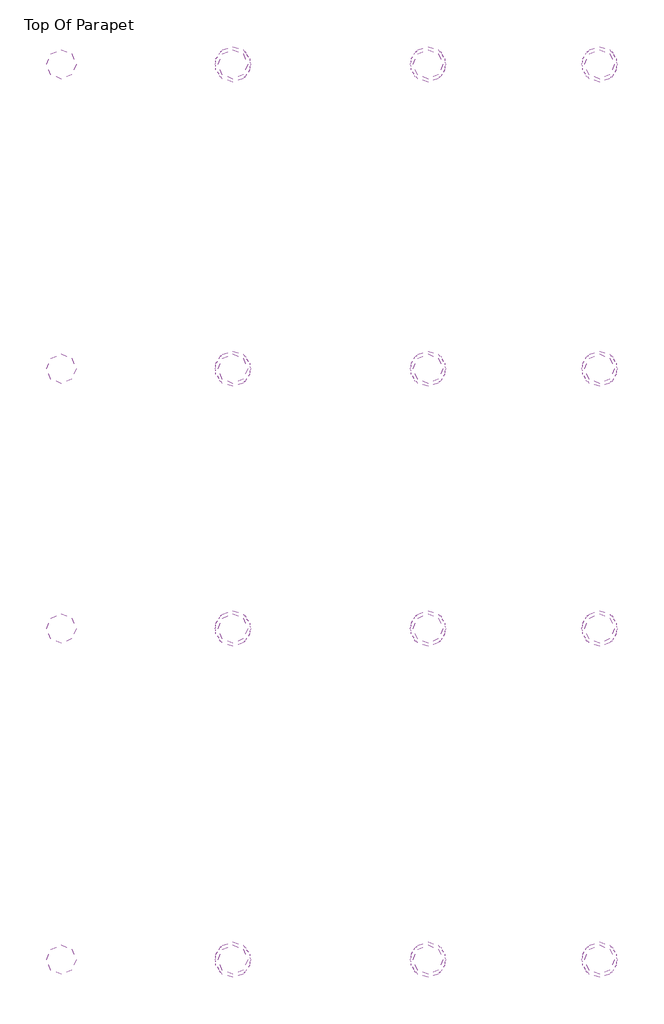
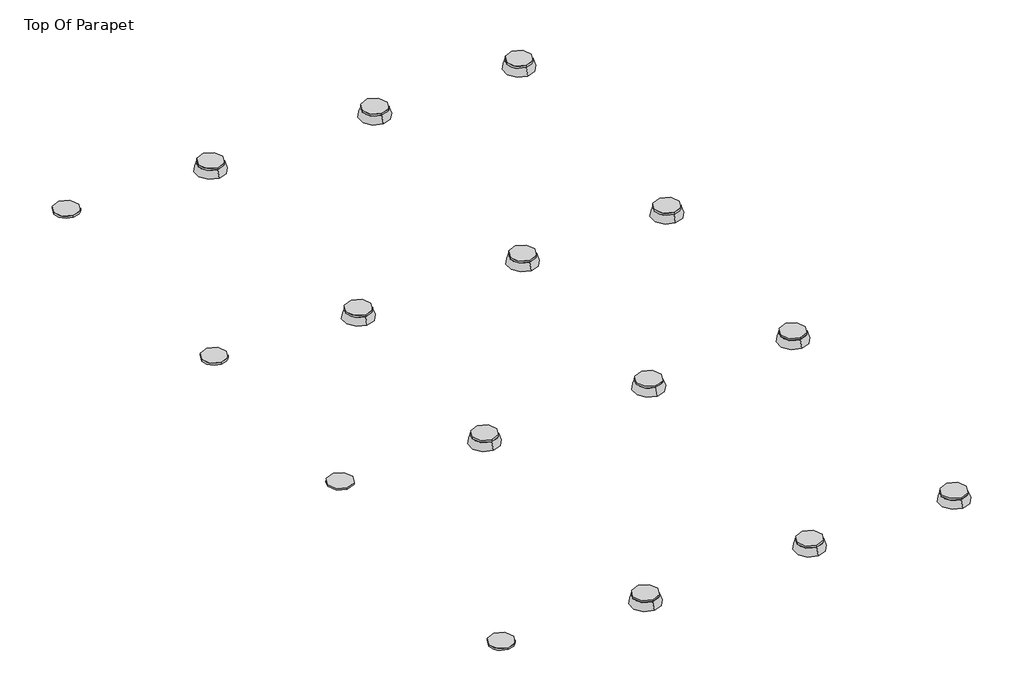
# One storey: 16 duct segments, 12 air terminals.
"""IFC4 building model written with IfcOpenShell, lengths in millimetres."""

import ifcopenshell
import ifcopenshell.guid

model = None  # the IFC model being written
_history = None  # IfcOwnerHistory: only IFC2X3 demands one
_inside = {}  # id of a spatial element -> (the spatial element, [elements in it])
_under = {}  # id of a project, library or spatial element -> (it, [spatial elements below it])
_declared = {}  # id of a project -> (the project, [libraries it declares])
_typed = {}  # id of a type object -> (the type object, [elements of that type])
_made_of = {}  # id of a material, layer set ... -> (it, [elements and type objects made of it])


def new_model(schema):
    """Start an empty IFC model of exactly this schema.

    Asked for "IFC4X3", IfcOpenShell would pick the latest addendum, in which some entities
    have other attributes; the version numbers below select the first issue.
    IFC2X3 requires an IfcOwnerHistory on every rooted entity: one is made here for all.
    """
    global model, _history
    if schema == "IFC4X3":
        model = ifcopenshell.file(schema_version=(4, 3, 0, 0))
    else:
        model = ifcopenshell.file(schema=schema)
    _inside.clear()
    _under.clear()
    _declared.clear()
    _typed.clear()
    _made_of.clear()
    _history = None
    if model.schema == "IFC2X3":
        org = make("IfcOrganization", Name="unknown")
        user = make(
            "IfcPersonAndOrganization",
            ThePerson=make("IfcPerson", FamilyName="unknown"),
            TheOrganization=org,
        )
        app = make(
            "IfcApplication",
            ApplicationDeveloper=org,
            Version="unknown",
            ApplicationFullName="unknown",
            ApplicationIdentifier="unknown",
        )
        _history = make(
            "IfcOwnerHistory",
            OwningUser=user,
            OwningApplication=app,
            ChangeAction="ADDED",
            CreationDate=0,
        )
    return model


def make(cls, **values):
    """One entity of the class cls with the attributes given. An attribute that is None is left unset."""
    return model.create_entity(
        cls, **{name: value for name, value in values.items() if value is not None}
    )


def rooted(cls, **values):
    """An entity with a GlobalId (a new one), such as an element, a storey or a relation."""
    return make(cls, GlobalId=ifcopenshell.guid.new(), OwnerHistory=_history, **values)


def si_unit(unit_type, name, prefix=None):
    """IfcSIUnit, for example si_unit("LENGTHUNIT", "METRE", prefix="MILLI")."""
    return make("IfcSIUnit", UnitType=unit_type, Prefix=prefix, Name=name)


def assignment(units):
    """IfcUnitAssignment: the units of a project."""
    return None if units is None else make("IfcUnitAssignment", Units=units)


def point(xyz):
    """IfcCartesianPoint."""
    return None if xyz is None else make("IfcCartesianPoint", Coordinates=xyz)


def direction(xyz):
    """IfcDirection."""
    return None if xyz is None else make("IfcDirection", DirectionRatios=xyz)


def frame(location, z_axis=None, x_axis=None):
    """IfcAxis2Placement3D, a coordinate frame: its origin and axes. An axis left out is left unset."""
    return make(
        "IfcAxis2Placement3D",
        Location=point(location),
        Axis=direction(z_axis),
        RefDirection=direction(x_axis),
    )


def frame_2d(location, x_axis=None):
    """IfcAxis2Placement2D, a coordinate frame in the plane: its origin and x axis."""
    return make(
        "IfcAxis2Placement2D", Location=point(location), RefDirection=direction(x_axis)
    )


def origin():
    """The frame at (0, 0, 0) with its axes left unset."""
    return frame((0.0, 0.0, 0.0))


def origin_with_axes():
    """The frame at (0, 0, 0) with the z axis (0, 0, 1) and the x axis (1, 0, 0) written out."""
    return frame((0.0, 0.0, 0.0), z_axis=(0.0, 0.0, 1.0), x_axis=(1.0, 0.0, 0.0))


def origin_2d():
    """The frame at (0, 0) in the plane with its x axis left unset."""
    return frame_2d((0.0, 0.0))


def place(relative_to, where):
    """IfcLocalPlacement: puts the frame where relative to a parent placement (None: the world)."""
    return make(
        "IfcLocalPlacement", PlacementRelTo=relative_to, RelativePlacement=where
    )


def context(
    kind, dimensions, precision=None, world=None, true_north=None, identifier=None
):
    """IfcGeometricRepresentationContext, for example the 3D "Model" context."""
    return make(
        "IfcGeometricRepresentationContext",
        ContextIdentifier=identifier,
        ContextType=kind,
        CoordinateSpaceDimension=dimensions,
        Precision=precision,
        WorldCoordinateSystem=world,
        TrueNorth=true_north,
    )


def project(units=None, contexts=None):
    """IfcProject with its units and contexts."""
    return rooted(
        "IfcProject",
        Name="project",
        RepresentationContexts=contexts,
        UnitsInContext=assignment(units),
    )


def spatial(cls, under=None, at=None, **own):
    """A site, building, storey or space (cls), placed at a placement, below another one or the project."""
    s = rooted(cls, ObjectPlacement=at, **own)
    if under is not None:
        _under.setdefault(under.id(), (under, []))[1].append(s)
    return s


def polyline(points):
    """IfcPolyline through the points."""
    return make("IfcPolyline", Points=[point(p) for p in points])


def circle_curve(where, radius):
    """IfcCircle in the frame where."""
    return make("IfcCircle", Position=where, Radius=radius)


def trimmed(basis, trim1, trim2, sense, master):
    """IfcTrimmedCurve: the piece of a basis curve between two trims."""
    return make(
        "IfcTrimmedCurve",
        BasisCurve=basis,
        Trim1=trim1,
        Trim2=trim2,
        SenseAgreement=sense,
        MasterRepresentation=master,
    )


def segment(curve, same_sense, transition):
    """IfcCompositeCurveSegment."""
    return make(
        "IfcCompositeCurveSegment",
        Transition=transition,
        SameSense=same_sense,
        ParentCurve=curve,
    )


def composite_curve(segments, self_intersect=None):
    """IfcCompositeCurve: segments joined end to end."""
    return make("IfcCompositeCurve", Segments=segments, SelfIntersect=self_intersect)


def outline(outer, holes=None, kind="AREA"):
    """IfcArbitraryClosedProfileDef: a profile drawn as a closed curve; with holes, ...WithVoids."""
    if holes is None:
        return make("IfcArbitraryClosedProfileDef", ProfileType=kind, OuterCurve=outer)
    return make(
        "IfcArbitraryProfileDefWithVoids",
        ProfileType=kind,
        OuterCurve=outer,
        InnerCurves=holes,
    )


def extrude(swept, where, along, depth):
    """IfcExtrudedAreaSolid: the profile swept, set in the frame where, extruded along a direction by depth."""
    return make(
        "IfcExtrudedAreaSolid",
        SweptArea=swept,
        Position=where,
        ExtrudedDirection=direction(along),
        Depth=depth,
    )


def shape(context_of_items, identifier, shape_type, items):
    """IfcShapeRepresentation: the items that make up one representation, for example the "Body"."""
    return make(
        "IfcShapeRepresentation",
        ContextOfItems=context_of_items,
        RepresentationIdentifier=identifier,
        RepresentationType=shape_type,
        Items=items,
    )


def source(mapping_origin, context_of_items, identifier, shape_type, items):
    """IfcRepresentationMap: a shape defined once, which mapped items show again and again."""
    return make(
        "IfcRepresentationMap",
        MappingOrigin=mapping_origin,
        MappedRepresentation=shape(context_of_items, identifier, shape_type, items),
    )


def transform(
    local_origin,
    x_axis=None,
    y_axis=None,
    z_axis=None,
    scale=None,
    scale2=None,
    scale3=None,
    uniform=True,
):
    """IfcCartesianTransformationOperator3D, or its non-uniform kind. x_axis, y_axis, z_axis: its Axis1, 2, 3."""
    if uniform:
        return make(
            "IfcCartesianTransformationOperator3D",
            Axis1=direction(x_axis),
            Axis2=direction(y_axis),
            LocalOrigin=point(local_origin),
            Scale=scale,
            Axis3=direction(z_axis),
        )
    return make(
        "IfcCartesianTransformationOperator3DnonUniform",
        Axis1=direction(x_axis),
        Axis2=direction(y_axis),
        LocalOrigin=point(local_origin),
        Scale=scale,
        Axis3=direction(z_axis),
        Scale2=scale2,
        Scale3=scale3,
    )


def mapped(mapping_source, mapping_target):
    """IfcMappedItem: shows the shape of a source again, moved by a transform."""
    return make(
        "IfcMappedItem", MappingSource=mapping_source, MappingTarget=mapping_target
    )


def made_of(thing, what):
    """Note that an element or type object is made of a material, layer set ...; save() writes the relation."""
    if what is not None:
        _made_of.setdefault(what.id(), (what, []))[1].append(thing)
    return thing


def element(
    cls,
    number,
    at=None,
    inside=None,
    cuts=None,
    type_object=None,
    material=None,
    context=None,
    identifier="Body",
    shape_type=None,
    held_by="IfcProductDefinitionShape",
    body=None,
    shapes=None,
    **own,
):
    """One element of the class cls, such as IfcWall. Its Tag is "e" and its number.

    at: its placement. inside: the storey or other place that contains it. cuts: it is an
    opening in that element (IfcRelVoidsElement). A single representation is given by context,
    identifier, shape_type and body (its items); several are given by shapes. held_by: the class
    of the entity that holds the representations. save() writes the other relations.
    """
    e = rooted(cls, Tag="e%d" % number, ObjectPlacement=at, **own)
    if body is not None:
        shapes = [shape(context, identifier, shape_type, body)]
    if shapes is not None:
        e.Representation = make(held_by, Representations=shapes)
    if inside is not None:
        _inside.setdefault(inside.id(), (inside, []))[1].append(e)
    if cuts is not None:
        rooted(
            "IfcRelVoidsElement", RelatingBuildingElement=cuts, RelatedOpeningElement=e
        )
    if type_object is not None:
        _typed.setdefault(type_object.id(), (type_object, []))[1].append(e)
    return made_of(e, material)


def aggregate(whole, parts):
    """IfcRelAggregates: a whole, such as a stair, and the parts it consists of."""
    return rooted("IfcRelAggregates", RelatingObject=whole, RelatedObjects=parts)


def save(model, path):
    """Write the relations noted so far, then the file.

    IfcRelAggregates (storeys below a building ...), IfcRelContainedInSpatialStructure (elements
    in a storey), IfcRelDefinesByType, IfcRelAssociatesMaterial and IfcRelDeclares: one each for
    every whole, place, type object, material and project.
    """
    for whole, parts in _under.values():
        aggregate(whole, parts)
    for where, things in _inside.values():
        rooted(
            "IfcRelContainedInSpatialStructure",
            RelatedElements=things,
            RelatingStructure=where,
        )
    for kind, things in _typed.values():
        rooted("IfcRelDefinesByType", RelatedObjects=things, RelatingType=kind)
    for what, things in _made_of.values():
        rooted("IfcRelAssociatesMaterial", RelatedObjects=things, RelatingMaterial=what)
    for by, libraries in _declared.values():
        rooted("IfcRelDeclares", RelatingContext=by, RelatedDefinitions=libraries)
    model.write(path)


def plane_surface(at):
    """IfcPlane: the flat surface through the origin of the frame at, square to its z axis."""
    return make("IfcPlane", Position=at)


def revolved_surface(curve, axis_point, axis_direction):
    """IfcSurfaceOfRevolution: the curve turned about the line through axis_point along axis_direction."""
    return make(
        "IfcSurfaceOfRevolution",
        SweptCurve=make("IfcArbitraryOpenProfileDef", ProfileType="CURVE", Curve=curve),
        AxisPosition=make("IfcAxis1Placement", Location=point(axis_point), Axis=direction(axis_direction)),
    )


def advanced_brep(points, edges, surfaces, faces):
    """IfcAdvancedBrep: a solid bounded by faces that lie on surfaces and meet in shared edges.

    An edge is (start, end): straight between two places in points (the first is 0);
    or (start, end, curve); or (start, end, curve, False) where it runs against its curve.
    A face is (place in surfaces, loops), or (place, loops, False) where it looks against
    its surface's normal. A loop lists edges by number (the first is 1), with a minus sign
    where the edge is run from its end to its start. The first loop is the outer one.
    """
    corners = [point(p) for p in points]
    vertices = [make("IfcVertexPoint", VertexGeometry=c) for c in corners]
    made = []
    for start, end, *more in edges:
        made.append(
            make(
                "IfcEdgeCurve",
                EdgeStart=vertices[start],
                EdgeEnd=vertices[end],
                EdgeGeometry=more[0] if more else make("IfcPolyline", Points=[corners[start], corners[end]]),
                SameSense=more[1] if len(more) > 1 else True,
            )
        )
    hull = []
    for where, loops, *sense in faces:
        bounds = []
        for j, loop in enumerate(loops):
            ring = [make("IfcOrientedEdge", EdgeElement=made[abs(k) - 1], Orientation=k > 0) for k in loop]
            bounds.append(
                make(
                    "IfcFaceOuterBound" if j == 0 else "IfcFaceBound",
                    Bound=make("IfcEdgeLoop", EdgeList=ring),
                    Orientation=True,
                )
            )
        hull.append(make("IfcAdvancedFace", Bounds=bounds, FaceSurface=surfaces[where], SameSense=sense[0] if sense else True))
    return make("IfcAdvancedBrep", Outer=make("IfcClosedShell", CfsFaces=hull))


def m_supply_diffuser_circular_round_neck_ceiling_mounted_600_mm_208f270a(model_context):
    return source(origin(), model_context, "Body", "SolidModel", [
        extrude(outline(composite_curve([segment(trimmed(circle_curve(origin_2d(), 63.5), [point((-63.5, 0.0))], [point((63.5, 0.0))], False, "CARTESIAN"), True, "CONTINUOUS"), segment(trimmed(circle_curve(origin_2d(), 63.5), [point((63.5, 0.0))], [point((-63.5, 0.0))], False, "CARTESIAN"), True, "CONTINUOUS")], self_intersect=False)), frame((0.0, 0.0, -157.0), z_axis=(0.0, 0.0, 1.0), x_axis=(1.0, 0.0, 0.0)), (0.0, 0.0, 1.0), 5.0),
        advanced_brep(
        [(-250.0, 0.0, -152.0), (250.0, 0.0, -152.0), (-300.0, 0.0, 0.0), (300.0, 0.0, 0.0)],
        [
            (0, 1, circle_curve(frame((0.0, 0.0, -152.0), z_axis=(0.0, 0.0, -1.0), x_axis=(-1.0, 0.0, 0.0)), 250.0)),
            (1, 0, circle_curve(frame((0.0, 0.0, -152.0), z_axis=(0.0, 0.0, -1.0), x_axis=(1.0, 0.0, 0.0)), 250.0)),
            (2, 3, circle_curve(origin_with_axes(), 300.0)),
            (3, 2, circle_curve(frame((0.0, 0.0, 0.0), z_axis=(0.0, 0.0, 1.0), x_axis=(-1.0, 0.0, 0.0)), 300.0)),
            (3, 1),
            (0, 2),
        ],
        [
            plane_surface(frame((0.0, 0.0, -152.0), z_axis=(0.0, 0.0, -1.0), x_axis=(0.0, -1.0, 0.0))),
            plane_surface(frame((0.0, 0.0, 0.0), z_axis=(0.0, 0.0, 1.0), x_axis=(0.0, -1.0, 0.0))),
            revolved_surface(polyline([(-250.0, 0.0, -152.0), (-300.0, 0.0, 0.0)]), (0.0, 0.0, -912.0), (0.0, 0.0, 1.0)),
            revolved_surface(polyline([(250.0, 0.0, -152.0), (300.0, 0.0, 0.0)]), (0.0, 0.0, -912.0), (0.0, 0.0, 1.0)),
        ],
        [
            (0, [[1, 2]]),
            (1, [[3, 4]]),
            (2, [[-4, 5, -1, 6]]),
            (3, [[-3, -6, -2, -5]]),
        ],
    ),
    ])


model = new_model("IFC4")

# Units and contexts
model_context = context("Model", 3, world=origin())
ifc_project = project(units=[si_unit("LENGTHUNIT", "METRE", prefix="MILLI")], contexts=[model_context])

# Site, building, storey
site = spatial("IfcSite", under=ifc_project)
building = spatial("IfcBuilding", under=site)
storey = spatial("IfcBuildingStorey", under=building, Name="Top Of Parapet", Elevation=5900.0)

# Air terminals
placement = place(None, origin())
m_supply_diffuser_circular_round_neck_ceiling_mounted_600_mm_shape = m_supply_diffuser_circular_round_neck_ceiling_mounted_600_mm_208f270a(model_context)
element("IfcAirTerminal", 1, ObjectType="M_Supply Diffuser - Circular - Round Neck - Ceiling Mounted : 600 mm Face 500 mm Neck", at=placement, inside=storey, context=model_context, shape_type="MappedRepresentation", body=[
    mapped(m_supply_diffuser_circular_round_neck_ceiling_mounted_600_mm_shape, transform((-13250.3527512, -9864.9909647, 7272.7131214), x_axis=(0.0, 0.9999999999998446, -5.576948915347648e-07), y_axis=(1.0000000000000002, 0.0, 0.0), z_axis=(0.0, -5.576948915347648e-07, -0.9999999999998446))),
])
element("IfcAirTerminal", 2, ObjectType="M_Supply Diffuser - Circular - Round Neck - Ceiling Mounted : 600 mm Face 500 mm Neck", at=placement, inside=storey, context=model_context, shape_type="MappedRepresentation", body=[
    mapped(m_supply_diffuser_circular_round_neck_ceiling_mounted_600_mm_shape, transform((-13250.3527512, -15012.9908891, 7272.7159924), x_axis=(0.0, 0.9999999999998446, -5.576948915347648e-07), y_axis=(1.0000000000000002, 0.0, 0.0), z_axis=(0.0, -5.576948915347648e-07, -0.9999999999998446))),
])
element("IfcAirTerminal", 3, ObjectType="M_Supply Diffuser - Circular - Round Neck - Ceiling Mounted : 600 mm Face 500 mm Neck", at=placement, inside=storey, context=model_context, shape_type="MappedRepresentation", body=[
    mapped(m_supply_diffuser_circular_round_neck_ceiling_mounted_600_mm_shape, transform((-13250.3527512, -19404.9911041, 7272.7184418), x_axis=(0.0, 0.9999999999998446, -5.576948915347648e-07), y_axis=(1.0000000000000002, 0.0, 0.0), z_axis=(0.0, -5.576948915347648e-07, -0.9999999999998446))),
])
element("IfcAirTerminal", 4, ObjectType="M_Supply Diffuser - Circular - Round Neck - Ceiling Mounted : 600 mm Face 500 mm Neck", at=placement, inside=storey, context=model_context, shape_type="MappedRepresentation", body=[
    mapped(m_supply_diffuser_circular_round_neck_ceiling_mounted_600_mm_shape, transform((-13250.3527512, -25004.9911041, 7272.7215649), x_axis=(0.0, 0.9999999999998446, -5.576948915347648e-07), y_axis=(1.0000000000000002, 0.0, 0.0), z_axis=(0.0, -5.576948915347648e-07, -0.9999999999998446))),
])
element("IfcAirTerminal", 5, ObjectType="M_Supply Diffuser - Circular - Round Neck - Ceiling Mounted : 600 mm Face 500 mm Neck", at=placement, inside=storey, context=model_context, shape_type="MappedRepresentation", body=[
    mapped(m_supply_diffuser_circular_round_neck_ceiling_mounted_600_mm_shape, transform((-9950.3527512, -9864.9909647, 7272.7131214), x_axis=(0.0, 0.9999999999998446, -5.576948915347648e-07), y_axis=(1.0000000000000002, 0.0, 0.0), z_axis=(0.0, -5.576948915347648e-07, -0.9999999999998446))),
])
element("IfcAirTerminal", 6, ObjectType="M_Supply Diffuser - Circular - Round Neck - Ceiling Mounted : 600 mm Face 500 mm Neck", at=placement, inside=storey, context=model_context, shape_type="MappedRepresentation", body=[
    mapped(m_supply_diffuser_circular_round_neck_ceiling_mounted_600_mm_shape, transform((-9950.3527512, -15012.9908891, 7272.7159924), x_axis=(0.0, 0.9999999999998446, -5.576948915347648e-07), y_axis=(1.0000000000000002, 0.0, 0.0), z_axis=(0.0, -5.576948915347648e-07, -0.9999999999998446))),
])
element("IfcAirTerminal", 7, ObjectType="M_Supply Diffuser - Circular - Round Neck - Ceiling Mounted : 600 mm Face 500 mm Neck", at=placement, inside=storey, context=model_context, shape_type="MappedRepresentation", body=[
    mapped(m_supply_diffuser_circular_round_neck_ceiling_mounted_600_mm_shape, transform((-9950.3527512, -19404.9911041, 7272.7184418), x_axis=(0.0, 0.9999999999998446, -5.576948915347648e-07), y_axis=(1.0000000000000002, 0.0, 0.0), z_axis=(0.0, -5.576948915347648e-07, -0.9999999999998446))),
])
element("IfcAirTerminal", 8, ObjectType="M_Supply Diffuser - Circular - Round Neck - Ceiling Mounted : 600 mm Face 500 mm Neck", at=placement, inside=storey, context=model_context, shape_type="MappedRepresentation", body=[
    mapped(m_supply_diffuser_circular_round_neck_ceiling_mounted_600_mm_shape, transform((-9950.3527512, -25004.9911041, 7272.7215649), x_axis=(0.0, 0.9999999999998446, -5.576948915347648e-07), y_axis=(1.0000000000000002, 0.0, 0.0), z_axis=(0.0, -5.576948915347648e-07, -0.9999999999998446))),
])
element("IfcAirTerminal", 9, ObjectType="M_Supply Diffuser - Circular - Round Neck - Ceiling Mounted : 600 mm Face 500 mm Neck", at=placement, inside=storey, context=model_context, shape_type="MappedRepresentation", body=[
    mapped(m_supply_diffuser_circular_round_neck_ceiling_mounted_600_mm_shape, transform((-7050.3527512, -9864.9909647, 7272.7131214), x_axis=(0.0, 0.9999999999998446, -5.576948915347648e-07), y_axis=(1.0000000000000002, 0.0, 0.0), z_axis=(0.0, -5.576948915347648e-07, -0.9999999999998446))),
])
element("IfcAirTerminal", 10, ObjectType="M_Supply Diffuser - Circular - Round Neck - Ceiling Mounted : 600 mm Face 500 mm Neck", at=placement, inside=storey, context=model_context, shape_type="MappedRepresentation", body=[
    mapped(m_supply_diffuser_circular_round_neck_ceiling_mounted_600_mm_shape, transform((-7050.3527512, -15012.9908891, 7272.7159924), x_axis=(0.0, 0.9999999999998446, -5.576948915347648e-07), y_axis=(1.0000000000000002, 0.0, 0.0), z_axis=(0.0, -5.576948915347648e-07, -0.9999999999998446))),
])
element("IfcAirTerminal", 11, ObjectType="M_Supply Diffuser - Circular - Round Neck - Ceiling Mounted : 600 mm Face 500 mm Neck", at=placement, inside=storey, context=model_context, shape_type="MappedRepresentation", body=[
    mapped(m_supply_diffuser_circular_round_neck_ceiling_mounted_600_mm_shape, transform((-7050.3527512, -19404.9911041, 7272.7184418), x_axis=(0.0, 0.9999999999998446, -5.576948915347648e-07), y_axis=(1.0000000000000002, 0.0, 0.0), z_axis=(0.0, -5.576948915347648e-07, -0.9999999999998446))),
])
element("IfcAirTerminal", 12, ObjectType="M_Supply Diffuser - Circular - Round Neck - Ceiling Mounted : 600 mm Face 500 mm Neck", at=placement, inside=storey, context=model_context, shape_type="MappedRepresentation", body=[
    mapped(m_supply_diffuser_circular_round_neck_ceiling_mounted_600_mm_shape, transform((-7050.3527512, -25004.9911041, 7272.7215649), x_axis=(0.0, 0.9999999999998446, -5.576948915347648e-07), y_axis=(1.0000000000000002, 0.0, 0.0), z_axis=(0.0, -5.576948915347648e-07, -0.9999999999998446))),
])

# Duct segments
element("IfcDuctSegment", 13, ObjectType="Tees", at=placement, inside=storey, context=model_context, shape_type="SweptSolid", body=[
    extrude(outline(composite_curve([segment(trimmed(circle_curve(frame_2d((0.0, 250.0)), 250.0), [point((0.0, 0.0))], [point((-250.0, 250.0))], False, "CARTESIAN"), True, "CONTINUOUS"), segment(trimmed(circle_curve(frame_2d((0.0, 250.0)), 250.0), [point((-250.0, 250.0))], [point((0.0, 500.0))], False, "CARTESIAN"), True, "CONTINUOUS"), segment(trimmed(circle_curve(frame_2d((0.0, 250.0)), 250.0), [point((0.0, 500.0))], [point((250.0, 250.0))], False, "CARTESIAN"), True, "CONTINUOUS"), segment(trimmed(circle_curve(frame_2d((0.0, 250.0)), 250.0), [point((250.0, 250.0))], [point((0.0, 0.0))], False, "CARTESIAN"), True, "CONTINUOUS")], self_intersect=False)), frame((-16150.3527512, -10114.9908771, 7429.7132608), z_axis=(0.0, 5.576948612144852e-07, 0.9999999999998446), x_axis=(1.0, 0.0, 0.0)), (0.0, 0.0, 1.0), 36.1878734),
])
element("IfcDuctSegment", 14, ObjectType="Tees", at=placement, inside=storey, context=model_context, shape_type="SweptSolid", body=[
    extrude(outline(composite_curve([segment(trimmed(circle_curve(frame_2d((0.0, 250.0)), 250.0), [point((0.0, 0.0))], [point((-250.0, 250.0))], False, "CARTESIAN"), True, "CONTINUOUS"), segment(trimmed(circle_curve(frame_2d((0.0, 250.0)), 250.0), [point((-250.0, 250.0))], [point((0.0, 500.0))], False, "CARTESIAN"), True, "CONTINUOUS"), segment(trimmed(circle_curve(frame_2d((0.0, 250.0)), 250.0), [point((0.0, 500.0))], [point((250.0, 250.0))], False, "CARTESIAN"), True, "CONTINUOUS"), segment(trimmed(circle_curve(frame_2d((0.0, 250.0)), 250.0), [point((250.0, 250.0))], [point((0.0, 0.0))], False, "CARTESIAN"), True, "CONTINUOUS")], self_intersect=False)), frame((-16150.3527512, -15262.7845355, 7429.7161317), z_axis=(0.0, 5.576949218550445e-07, 0.9999999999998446), x_axis=(1.0, 0.0, 0.0)), (0.0, 0.0, 1.0), 36.1878734),
])
element("IfcDuctSegment", 15, ObjectType="Tees", at=placement, inside=storey, context=model_context, shape_type="SweptSolid", body=[
    extrude(outline(composite_curve([segment(trimmed(circle_curve(frame_2d((0.0, 250.0)), 250.0), [point((0.0, 0.0))], [point((-250.0, 250.0))], False, "CARTESIAN"), True, "CONTINUOUS"), segment(trimmed(circle_curve(frame_2d((0.0, 250.0)), 250.0), [point((-250.0, 250.0))], [point((0.0, 500.0))], False, "CARTESIAN"), True, "CONTINUOUS"), segment(trimmed(circle_curve(frame_2d((0.0, 250.0)), 250.0), [point((0.0, 500.0))], [point((250.0, 250.0))], False, "CARTESIAN"), True, "CONTINUOUS"), segment(trimmed(circle_curve(frame_2d((0.0, 250.0)), 250.0), [point((250.0, 250.0))], [point((0.0, 0.0))], False, "CARTESIAN"), True, "CONTINUOUS")], self_intersect=False)), frame((-16150.3527512, -19654.9910165, 7429.7185812), z_axis=(0.0, 5.576949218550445e-07, 0.9999999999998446), x_axis=(1.0, 0.0, 0.0)), (0.0, 0.0, 1.0), 36.1878734),
])
element("IfcDuctSegment", 16, ObjectType="Tees", at=placement, inside=storey, context=model_context, shape_type="SweptSolid", body=[
    extrude(outline(composite_curve([segment(trimmed(circle_curve(frame_2d((0.0, 250.0)), 250.0), [point((0.0, 0.0))], [point((-250.0, 250.0))], False, "CARTESIAN"), True, "CONTINUOUS"), segment(trimmed(circle_curve(frame_2d((0.0, 250.0)), 250.0), [point((-250.0, 250.0))], [point((0.0, 500.0))], False, "CARTESIAN"), True, "CONTINUOUS"), segment(trimmed(circle_curve(frame_2d((0.0, 250.0)), 250.0), [point((0.0, 500.0))], [point((250.0, 250.0))], False, "CARTESIAN"), True, "CONTINUOUS"), segment(trimmed(circle_curve(frame_2d((0.0, 250.0)), 250.0), [point((250.0, 250.0))], [point((0.0, 0.0))], False, "CARTESIAN"), True, "CONTINUOUS")], self_intersect=False)), frame((-16150.3527512, -25254.7847505, 7429.7217042), z_axis=(0.0, 5.57694921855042e-07, 0.9999999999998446), x_axis=(1.0, 0.0, 0.0)), (0.0, 0.0, 1.0), 36.1878734),
])
element("IfcDuctSegment", 17, ObjectType="Tees", at=placement, inside=storey, context=model_context, shape_type="SweptSolid", body=[
    extrude(outline(composite_curve([segment(trimmed(circle_curve(frame_2d((0.0, 250.0)), 250.0), [point((0.0, 0.0))], [point((-250.0, 250.0))], False, "CARTESIAN"), True, "CONTINUOUS"), segment(trimmed(circle_curve(frame_2d((0.0, 250.0)), 250.0), [point((-250.0, 250.0))], [point((0.0, 500.0))], False, "CARTESIAN"), True, "CONTINUOUS"), segment(trimmed(circle_curve(frame_2d((0.0, 250.0)), 250.0), [point((0.0, 500.0))], [point((250.0, 250.0))], False, "CARTESIAN"), True, "CONTINUOUS"), segment(trimmed(circle_curve(frame_2d((0.0, 250.0)), 250.0), [point((250.0, 250.0))], [point((0.0, 0.0))], False, "CARTESIAN"), True, "CONTINUOUS")], self_intersect=False)), frame((-13250.3527512, -10114.9908771, 7429.7132608), z_axis=(0.0, 5.576949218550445e-07, 0.9999999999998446), x_axis=(1.0, 0.0, 0.0)), (0.0, 0.0, 1.0), 36.1878734),
])
element("IfcDuctSegment", 18, ObjectType="Tees", at=placement, inside=storey, context=model_context, shape_type="SweptSolid", body=[
    extrude(outline(composite_curve([segment(trimmed(circle_curve(frame_2d((0.0, 250.0)), 250.0), [point((0.0, 0.0))], [point((-250.0, 250.0))], False, "CARTESIAN"), True, "CONTINUOUS"), segment(trimmed(circle_curve(frame_2d((0.0, 250.0)), 250.0), [point((-250.0, 250.0))], [point((0.0, 500.0))], False, "CARTESIAN"), True, "CONTINUOUS"), segment(trimmed(circle_curve(frame_2d((0.0, 250.0)), 250.0), [point((0.0, 500.0))], [point((250.0, 250.0))], False, "CARTESIAN"), True, "CONTINUOUS"), segment(trimmed(circle_curve(frame_2d((0.0, 250.0)), 250.0), [point((250.0, 250.0))], [point((0.0, 0.0))], False, "CARTESIAN"), True, "CONTINUOUS")], self_intersect=False)), frame((-13250.3527512, -15262.9908016, 7429.7161319), z_axis=(0.0, 5.576949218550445e-07, 0.9999999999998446), x_axis=(1.0, 0.0, 0.0)), (0.0, 0.0, 1.0), 36.1878734),
])
element("IfcDuctSegment", 19, ObjectType="Tees", at=placement, inside=storey, context=model_context, shape_type="SweptSolid", body=[
    extrude(outline(composite_curve([segment(trimmed(circle_curve(frame_2d((0.0, 250.0)), 250.0), [point((0.0, 0.0))], [point((-250.0, 250.0))], False, "CARTESIAN"), True, "CONTINUOUS"), segment(trimmed(circle_curve(frame_2d((0.0, 250.0)), 250.0), [point((-250.0, 250.0))], [point((0.0, 500.0))], False, "CARTESIAN"), True, "CONTINUOUS"), segment(trimmed(circle_curve(frame_2d((0.0, 250.0)), 250.0), [point((0.0, 500.0))], [point((250.0, 250.0))], False, "CARTESIAN"), True, "CONTINUOUS"), segment(trimmed(circle_curve(frame_2d((0.0, 250.0)), 250.0), [point((250.0, 250.0))], [point((0.0, 0.0))], False, "CARTESIAN"), True, "CONTINUOUS")], self_intersect=False)), frame((-13250.3527512, -19654.9910165, 7429.7185812), z_axis=(0.0, 5.57694921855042e-07, 0.9999999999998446), x_axis=(1.0, 0.0, 0.0)), (0.0, 0.0, 1.0), 36.1878734),
])
element("IfcDuctSegment", 20, ObjectType="Tees", at=placement, inside=storey, context=model_context, shape_type="SweptSolid", body=[
    extrude(outline(composite_curve([segment(trimmed(circle_curve(frame_2d((0.0, 250.0)), 250.0), [point((0.0, 0.0))], [point((-250.0, 250.0))], False, "CARTESIAN"), True, "CONTINUOUS"), segment(trimmed(circle_curve(frame_2d((0.0, 250.0)), 250.0), [point((-250.0, 250.0))], [point((0.0, 500.0))], False, "CARTESIAN"), True, "CONTINUOUS"), segment(trimmed(circle_curve(frame_2d((0.0, 250.0)), 250.0), [point((0.0, 500.0))], [point((250.0, 250.0))], False, "CARTESIAN"), True, "CONTINUOUS"), segment(trimmed(circle_curve(frame_2d((0.0, 250.0)), 250.0), [point((250.0, 250.0))], [point((0.0, 0.0))], False, "CARTESIAN"), True, "CONTINUOUS")], self_intersect=False)), frame((-13250.3527512, -25254.9910165, 7429.7217043), z_axis=(0.0, 5.57694921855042e-07, 0.9999999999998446), x_axis=(1.0, 0.0, 0.0)), (0.0, 0.0, 1.0), 36.1878734),
])
element("IfcDuctSegment", 21, ObjectType="Tees", at=placement, inside=storey, context=model_context, shape_type="SweptSolid", body=[
    extrude(outline(composite_curve([segment(trimmed(circle_curve(frame_2d((0.0, 250.0)), 250.0), [point((0.0, 0.0))], [point((-250.0, 250.0))], False, "CARTESIAN"), True, "CONTINUOUS"), segment(trimmed(circle_curve(frame_2d((0.0, 250.0)), 250.0), [point((-250.0, 250.0))], [point((0.0, 500.0))], False, "CARTESIAN"), True, "CONTINUOUS"), segment(trimmed(circle_curve(frame_2d((0.0, 250.0)), 250.0), [point((0.0, 500.0))], [point((250.0, 250.0))], False, "CARTESIAN"), True, "CONTINUOUS"), segment(trimmed(circle_curve(frame_2d((0.0, 250.0)), 250.0), [point((250.0, 250.0))], [point((0.0, 0.0))], False, "CARTESIAN"), True, "CONTINUOUS")], self_intersect=False)), frame((-9950.3527512, -10114.9908771, 7429.7132608), z_axis=(0.0, 5.576949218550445e-07, 0.9999999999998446), x_axis=(1.0, 0.0, 0.0)), (0.0, 0.0, 1.0), 36.1878734),
])
element("IfcDuctSegment", 22, ObjectType="Tees", at=placement, inside=storey, context=model_context, shape_type="SweptSolid", body=[
    extrude(outline(composite_curve([segment(trimmed(circle_curve(frame_2d((0.0, 250.0)), 250.0), [point((0.0, 0.0))], [point((-250.0, 250.0))], False, "CARTESIAN"), True, "CONTINUOUS"), segment(trimmed(circle_curve(frame_2d((0.0, 250.0)), 250.0), [point((-250.0, 250.0))], [point((0.0, 500.0))], False, "CARTESIAN"), True, "CONTINUOUS"), segment(trimmed(circle_curve(frame_2d((0.0, 250.0)), 250.0), [point((0.0, 500.0))], [point((250.0, 250.0))], False, "CARTESIAN"), True, "CONTINUOUS"), segment(trimmed(circle_curve(frame_2d((0.0, 250.0)), 250.0), [point((250.0, 250.0))], [point((0.0, 0.0))], False, "CARTESIAN"), True, "CONTINUOUS")], self_intersect=False)), frame((-9950.3527512, -15262.9908016, 7429.7161319), z_axis=(0.0, 5.576949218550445e-07, 0.9999999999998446), x_axis=(1.0, 0.0, 0.0)), (0.0, 0.0, 1.0), 36.1878734),
])
element("IfcDuctSegment", 23, ObjectType="Tees", at=placement, inside=storey, context=model_context, shape_type="SweptSolid", body=[
    extrude(outline(composite_curve([segment(trimmed(circle_curve(frame_2d((0.0, 250.0)), 250.0), [point((0.0, 0.0))], [point((-250.0, 250.0))], False, "CARTESIAN"), True, "CONTINUOUS"), segment(trimmed(circle_curve(frame_2d((0.0, 250.0)), 250.0), [point((-250.0, 250.0))], [point((0.0, 500.0))], False, "CARTESIAN"), True, "CONTINUOUS"), segment(trimmed(circle_curve(frame_2d((0.0, 250.0)), 250.0), [point((0.0, 500.0))], [point((250.0, 250.0))], False, "CARTESIAN"), True, "CONTINUOUS"), segment(trimmed(circle_curve(frame_2d((0.0, 250.0)), 250.0), [point((250.0, 250.0))], [point((0.0, 0.0))], False, "CARTESIAN"), True, "CONTINUOUS")], self_intersect=False)), frame((-9950.3527512, -19654.9910165, 7429.7185812), z_axis=(0.0, 5.57694921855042e-07, 0.9999999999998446), x_axis=(1.0, 0.0, 0.0)), (0.0, 0.0, 1.0), 36.1878734),
])
element("IfcDuctSegment", 24, ObjectType="Tees", at=placement, inside=storey, context=model_context, shape_type="SweptSolid", body=[
    extrude(outline(composite_curve([segment(trimmed(circle_curve(frame_2d((0.0, 250.0)), 250.0), [point((0.0, 0.0))], [point((-250.0, 250.0))], False, "CARTESIAN"), True, "CONTINUOUS"), segment(trimmed(circle_curve(frame_2d((0.0, 250.0)), 250.0), [point((-250.0, 250.0))], [point((0.0, 500.0))], False, "CARTESIAN"), True, "CONTINUOUS"), segment(trimmed(circle_curve(frame_2d((0.0, 250.0)), 250.0), [point((0.0, 500.0))], [point((250.0, 250.0))], False, "CARTESIAN"), True, "CONTINUOUS"), segment(trimmed(circle_curve(frame_2d((0.0, 250.0)), 250.0), [point((250.0, 250.0))], [point((0.0, 0.0))], False, "CARTESIAN"), True, "CONTINUOUS")], self_intersect=False)), frame((-9950.3527512, -25254.9910165, 7429.7217043), z_axis=(0.0, 5.57694921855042e-07, 0.9999999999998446), x_axis=(1.0, 0.0, 0.0)), (0.0, 0.0, 1.0), 36.1878734),
])
element("IfcDuctSegment", 25, ObjectType="Tees", at=placement, inside=storey, context=model_context, shape_type="SweptSolid", body=[
    extrude(outline(composite_curve([segment(trimmed(circle_curve(frame_2d((0.0, 250.0)), 250.0), [point((0.0, 0.0))], [point((-250.0, 250.0))], False, "CARTESIAN"), True, "CONTINUOUS"), segment(trimmed(circle_curve(frame_2d((0.0, 250.0)), 250.0), [point((-250.0, 250.0))], [point((0.0, 500.0))], False, "CARTESIAN"), True, "CONTINUOUS"), segment(trimmed(circle_curve(frame_2d((0.0, 250.0)), 250.0), [point((0.0, 500.0))], [point((250.0, 250.0))], False, "CARTESIAN"), True, "CONTINUOUS"), segment(trimmed(circle_curve(frame_2d((0.0, 250.0)), 250.0), [point((250.0, 250.0))], [point((0.0, 0.0))], False, "CARTESIAN"), True, "CONTINUOUS")], self_intersect=False)), frame((-7050.3527512, -10114.9908771, 7429.7132608), z_axis=(0.0, 5.576949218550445e-07, 0.9999999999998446), x_axis=(1.0, 0.0, 0.0)), (0.0, 0.0, 1.0), 36.1878734),
])
element("IfcDuctSegment", 26, ObjectType="Tees", at=placement, inside=storey, context=model_context, shape_type="SweptSolid", body=[
    extrude(outline(composite_curve([segment(trimmed(circle_curve(frame_2d((0.0, 250.0)), 250.0), [point((0.0, 0.0))], [point((-250.0, 250.0))], False, "CARTESIAN"), True, "CONTINUOUS"), segment(trimmed(circle_curve(frame_2d((0.0, 250.0)), 250.0), [point((-250.0, 250.0))], [point((0.0, 500.0))], False, "CARTESIAN"), True, "CONTINUOUS"), segment(trimmed(circle_curve(frame_2d((0.0, 250.0)), 250.0), [point((0.0, 500.0))], [point((250.0, 250.0))], False, "CARTESIAN"), True, "CONTINUOUS"), segment(trimmed(circle_curve(frame_2d((0.0, 250.0)), 250.0), [point((250.0, 250.0))], [point((0.0, 0.0))], False, "CARTESIAN"), True, "CONTINUOUS")], self_intersect=False)), frame((-7050.3527512, -15262.9908016, 7429.7161319), z_axis=(0.0, 5.576949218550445e-07, 0.9999999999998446), x_axis=(1.0, 0.0, 0.0)), (0.0, 0.0, 1.0), 36.1878734),
])
element("IfcDuctSegment", 27, ObjectType="Tees", at=placement, inside=storey, context=model_context, shape_type="SweptSolid", body=[
    extrude(outline(composite_curve([segment(trimmed(circle_curve(frame_2d((0.0, 250.0)), 250.0), [point((0.0, 0.0))], [point((-250.0, 250.0))], False, "CARTESIAN"), True, "CONTINUOUS"), segment(trimmed(circle_curve(frame_2d((0.0, 250.0)), 250.0), [point((-250.0, 250.0))], [point((0.0, 500.0))], False, "CARTESIAN"), True, "CONTINUOUS"), segment(trimmed(circle_curve(frame_2d((0.0, 250.0)), 250.0), [point((0.0, 500.0))], [point((250.0, 250.0))], False, "CARTESIAN"), True, "CONTINUOUS"), segment(trimmed(circle_curve(frame_2d((0.0, 250.0)), 250.0), [point((250.0, 250.0))], [point((0.0, 0.0))], False, "CARTESIAN"), True, "CONTINUOUS")], self_intersect=False)), frame((-7050.3527512, -19654.9910165, 7429.7185812), z_axis=(0.0, 5.57694921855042e-07, 0.9999999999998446), x_axis=(1.0, 0.0, 0.0)), (0.0, 0.0, 1.0), 36.1878734),
])
element("IfcDuctSegment", 28, ObjectType="Tees", at=placement, inside=storey, context=model_context, shape_type="SweptSolid", body=[
    extrude(outline(composite_curve([segment(trimmed(circle_curve(frame_2d((0.0, 250.0)), 250.0), [point((0.0, 0.0))], [point((-250.0, 250.0))], False, "CARTESIAN"), True, "CONTINUOUS"), segment(trimmed(circle_curve(frame_2d((0.0, 250.0)), 250.0), [point((-250.0, 250.0))], [point((0.0, 500.0))], False, "CARTESIAN"), True, "CONTINUOUS"), segment(trimmed(circle_curve(frame_2d((0.0, 250.0)), 250.0), [point((0.0, 500.0))], [point((250.0, 250.0))], False, "CARTESIAN"), True, "CONTINUOUS"), segment(trimmed(circle_curve(frame_2d((0.0, 250.0)), 250.0), [point((250.0, 250.0))], [point((0.0, 0.0))], False, "CARTESIAN"), True, "CONTINUOUS")], self_intersect=False)), frame((-7050.3527512, -25254.9910165, 7429.7217043), z_axis=(0.0, 5.57694921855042e-07, 0.9999999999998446), x_axis=(1.0, 0.0, 0.0)), (0.0, 0.0, 1.0), 36.1878734),
])

save(model, "model.ifc")
